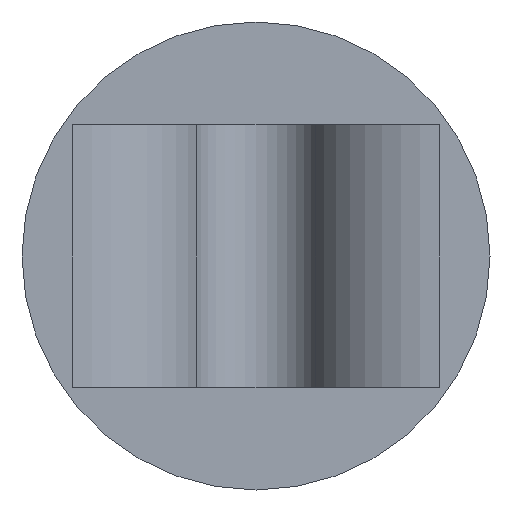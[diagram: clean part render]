
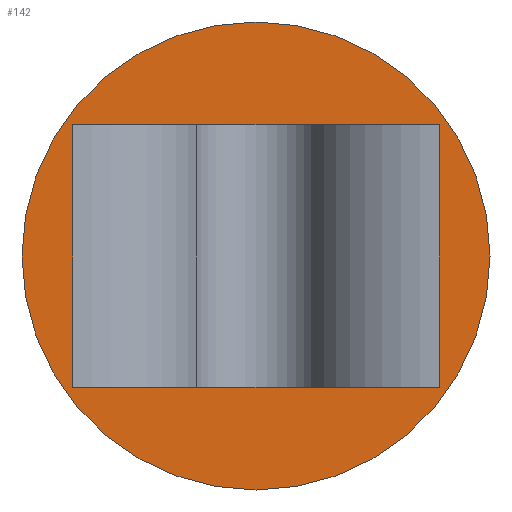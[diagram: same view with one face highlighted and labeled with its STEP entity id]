
A CAD part, front view. The second image highlights one B-rep face of the part: STEP entity #142.
In plain terms, the highlighted planar face has unit normal (0, -1, 0).
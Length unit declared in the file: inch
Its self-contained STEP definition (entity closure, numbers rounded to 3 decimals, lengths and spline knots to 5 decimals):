
#6 = FACE_OUTER_BOUND ( 'NONE', #184, .T. ) ;
#35 = DIRECTION ( 'NONE',  ( 0., -1., 0. ) ) ;
#36 = EDGE_CURVE ( 'NONE', #488, #536, #497, .T. ) ;
#38 = DIRECTION ( 'NONE',  ( 0., -1., 0. ) ) ;
#45 = CARTESIAN_POINT ( 'NONE',  ( 0., -0.093, -0.275 ) ) ;
#61 = VECTOR ( 'NONE', #371, 39.37008 ) ;
#62 = VERTEX_POINT ( 'NONE', #45 ) ;
#80 = CIRCLE ( 'NONE', #493, 0.625 ) ;
#129 = VECTOR ( 'NONE', #339, 39.37008 ) ;
#142 = ADVANCED_FACE ( 'NONE', ( #6, #170 ), #334, .F. ) ;
#152 = ORIENTED_EDGE ( 'NONE', *, *, #36, .F. ) ;
#170 = FACE_BOUND ( 'NONE', #392, .T. ) ;
#180 = VERTEX_POINT ( 'NONE', #518 ) ;
#182 = EDGE_CURVE ( 'NONE', #536, #180, #220, .T. ) ;
#184 = EDGE_LOOP ( 'NONE', ( #446, #525 ) ) ;
#192 = ORIENTED_EDGE ( 'NONE', *, *, #329, .T. ) ;
#198 = CARTESIAN_POINT ( 'NONE',  ( 0., -0.093, 0.975 ) ) ;
#220 = LINE ( 'NONE', #402, #129 ) ;
#228 = VERTEX_POINT ( 'NONE', #291 ) ;
#235 = VECTOR ( 'NONE', #343, 39.37008 ) ;
#238 = ORIENTED_EDGE ( 'NONE', *, *, #182, .F. ) ;
#240 = EDGE_CURVE ( 'NONE', #488, #228, #269, .T. ) ;
#268 = CIRCLE ( 'NONE', #440, 0.625 ) ;
#269 = LINE ( 'NONE', #445, #235 ) ;
#274 = LINE ( 'NONE', #448, #61 ) ;
#280 = CARTESIAN_POINT ( 'NONE',  ( 0.48952, -0.093, 0.7 ) ) ;
#283 = CARTESIAN_POINT ( 'NONE',  ( 0., -0.093, 0.35 ) ) ;
#290 = DIRECTION ( 'NONE',  ( 0., 0., 1. ) ) ;
#291 = CARTESIAN_POINT ( 'NONE',  ( 0.48952, -0.093, 0. ) ) ;
#327 = DIRECTION ( 'NONE',  ( -1., 0., 0. ) ) ;
#329 = EDGE_CURVE ( 'NONE', #228, #180, #274, .T. ) ;
#334 = PLANE ( 'NONE',  #358 ) ;
#339 = DIRECTION ( 'NONE',  ( 0., 0., -1. ) ) ;
#343 = DIRECTION ( 'NONE',  ( 0., 0., -1. ) ) ;
#348 = ORIENTED_EDGE ( 'NONE', *, *, #240, .T. ) ;
#358 = AXIS2_PLACEMENT_3D ( 'NONE', #506, #381, #290 ) ;
#362 = EDGE_CURVE ( 'NONE', #387, #62, #268, .T. ) ;
#371 = DIRECTION ( 'NONE',  ( -1., 0., 0. ) ) ;
#377 = CARTESIAN_POINT ( 'NONE',  ( -0.48952, -0.093, 0.7 ) ) ;
#381 = DIRECTION ( 'NONE',  ( 0., 1., 0. ) ) ;
#387 = VERTEX_POINT ( 'NONE', #198 ) ;
#392 = EDGE_LOOP ( 'NONE', ( #152, #348, #192, #238 ) ) ;
#394 = VECTOR ( 'NONE', #327, 39.37008 ) ;
#402 = CARTESIAN_POINT ( 'NONE',  ( -0.48952, -0.093, 0.7 ) ) ;
#404 = EDGE_CURVE ( 'NONE', #62, #387, #80, .T. ) ;
#408 = DIRECTION ( 'NONE',  ( 0., 0., -1. ) ) ;
#421 = CARTESIAN_POINT ( 'NONE',  ( 0.48952, -0.093, 0.7 ) ) ;
#440 = AXIS2_PLACEMENT_3D ( 'NONE', #498, #38, #408 ) ;
#445 = CARTESIAN_POINT ( 'NONE',  ( 0.48952, -0.093, 0.7 ) ) ;
#446 = ORIENTED_EDGE ( 'NONE', *, *, #404, .T. ) ;
#448 = CARTESIAN_POINT ( 'NONE',  ( 0.48952, -0.093, 0. ) ) ;
#452 = DIRECTION ( 'NONE',  ( 0., 0., -1. ) ) ;
#488 = VERTEX_POINT ( 'NONE', #421 ) ;
#493 = AXIS2_PLACEMENT_3D ( 'NONE', #283, #35, #452 ) ;
#497 = LINE ( 'NONE', #280, #394 ) ;
#498 = CARTESIAN_POINT ( 'NONE',  ( 0., -0.093, 0.35 ) ) ;
#506 = CARTESIAN_POINT ( 'NONE',  ( -0.625, -0.093, 0.7 ) ) ;
#518 = CARTESIAN_POINT ( 'NONE',  ( -0.48952, -0.093, 0. ) ) ;
#525 = ORIENTED_EDGE ( 'NONE', *, *, #362, .T. ) ;
#536 = VERTEX_POINT ( 'NONE', #377 ) ;
